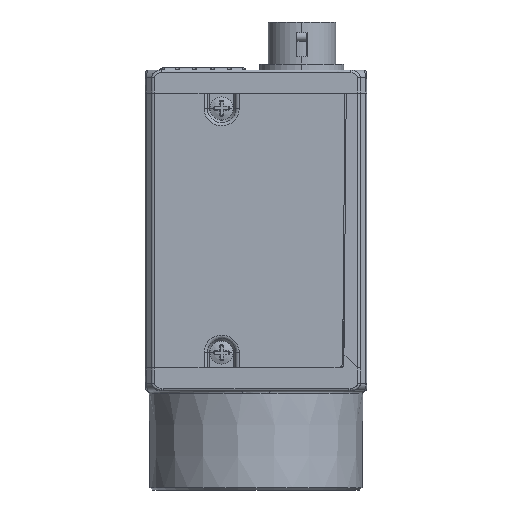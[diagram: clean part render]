
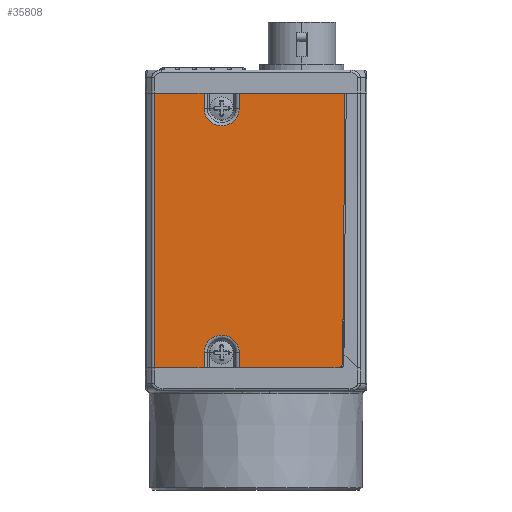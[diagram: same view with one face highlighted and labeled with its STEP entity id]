
A CAD part, left-side view. The second image highlights one B-rep face of the part: STEP entity #35808.
In plain terms, the highlighted planar face has unit normal (-1, 0, 0).
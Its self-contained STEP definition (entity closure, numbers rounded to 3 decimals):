
#5970=DIRECTION('',(0.,-1.,0.));
#5971=VECTOR('',#5970,6.492);
#5972=CARTESIAN_POINT('',(-14.5,13.293,33.5));
#5973=LINE('',#5972,#5971);
#6038=DIRECTION('',(0.,-1.,0.));
#6039=VECTOR('',#6038,13.849);
#6040=CARTESIAN_POINT('',(-14.5,2.199,33.5));
#6041=LINE('',#6040,#6039);
#6042=CARTESIAN_POINT('',(-14.5,4.5,-0.5));
#6043=DIRECTION('',(-1.,0.,0.));
#6044=DIRECTION('',(0.,-1.,0.));
#6045=AXIS2_PLACEMENT_3D('',#6042,#6043,#6044);
#6047=CARTESIAN_POINT('',(-14.5,4.5,-0.5));
#6048=DIRECTION('',(-1.,0.,0.));
#6049=DIRECTION('',(0.,-0.992,0.122));
#6050=AXIS2_PLACEMENT_3D('',#6047,#6048,#6049);
#6052=CARTESIAN_POINT('',(-14.5,4.5,31.5));
#6053=DIRECTION('',(-1.,0.,0.));
#6054=DIRECTION('',(0.,1.,0.));
#6055=AXIS2_PLACEMENT_3D('',#6052,#6053,#6054);
#6057=CARTESIAN_POINT('',(-14.5,4.5,31.5));
#6058=DIRECTION('',(-1.,0.,0.));
#6059=DIRECTION('',(0.,0.992,-0.122));
#6060=AXIS2_PLACEMENT_3D('',#6057,#6058,#6059);
#6062=DIRECTION('',(0.,0.009,-1.));
#6063=VECTOR('',#6062,35.407);
#6064=CARTESIAN_POINT('',(-14.5,-11.65,33.5));
#6065=LINE('',#6064,#6063);
#6066=CARTESIAN_POINT('',(-14.5,-10.741,-1.9));
#6067=DIRECTION('',(1.,0.,0.));
#6068=DIRECTION('',(0.,-1.,-0.009));
#6069=AXIS2_PLACEMENT_3D('',#6066,#6067,#6068);
#6071=DIRECTION('',(0.,1.,0.));
#6072=VECTOR('',#6071,12.94);
#6073=CARTESIAN_POINT('',(-14.5,-10.741,-2.5));
#6074=LINE('',#6073,#6072);
#6145=DIRECTION('',(0.,1.,0.));
#6146=VECTOR('',#6145,6.492);
#6147=CARTESIAN_POINT('',(-14.5,6.801,-2.5));
#6148=LINE('',#6147,#6146);
#7573=CARTESIAN_POINT('',(-14.5,13.293,
-2.5));
#7590=DIRECTION('',(0.,0.,-1.));
#7591=VECTOR('',#7590,36.);
#7592=CARTESIAN_POINT('',(-14.5,13.293,33.5));
#7593=LINE('',#7592,#7591);
#7610=CARTESIAN_POINT('',(-14.5,13.293,33.5));
#9780=DIRECTION('',(0.,0.,-1.));
#9781=VECTOR('',#9780,2.);
#9782=CARTESIAN_POINT('',(-14.5,2.199,33.5));
#9783=LINE('',#9782,#9781);
#9812=DIRECTION('',(0.,0.,1.));
#9813=VECTOR('',#9812,2.);
#9814=CARTESIAN_POINT('',(-14.5,6.801,31.5));
#9815=LINE('',#9814,#9813);
#12375=DIRECTION('',(0.,0.,1.));
#12376=VECTOR('',#12375,2.);
#12377=CARTESIAN_POINT('',(-14.5,6.801,-2.5));
#12378=LINE('',#12377,#12376);
#12407=DIRECTION('',(0.,0.,-1.));
#12408=VECTOR('',#12407,2.);
#12409=CARTESIAN_POINT('',(-14.5,2.199,-0.5));
#12410=LINE('',#12409,#12408);
#26975=CARTESIAN_POINT('',(-14.5,2.199,-0.5));
#26976=CARTESIAN_POINT('',(-14.5,2.217,-0.219));
#26977=VERTEX_POINT('',#26975);
#26978=VERTEX_POINT('',#26976);
#26979=CARTESIAN_POINT('',(-14.5,6.801,-0.5));
#26980=VERTEX_POINT('',#26979);
#26981=CARTESIAN_POINT('',(-14.5,6.801,31.5));
#26982=CARTESIAN_POINT('',(-14.5,6.783,31.219));
#26983=VERTEX_POINT('',#26981);
#26984=VERTEX_POINT('',#26982);
#26985=CARTESIAN_POINT('',(-14.5,2.199,31.5));
#26986=VERTEX_POINT('',#26985);
#28517=VERTEX_POINT('',#7573);
#28518=CARTESIAN_POINT('',(-14.5,-10.741,-2.5));
#28519=CARTESIAN_POINT('',(-14.5,2.199,-2.5));
#28520=VERTEX_POINT('',#28518);
#28521=VERTEX_POINT('',#28519);
#28522=CARTESIAN_POINT('',(-14.5,6.801,-2.5));
#28523=VERTEX_POINT('',#28522);
#28565=VERTEX_POINT('',#7610);
#28566=CARTESIAN_POINT('',(-14.5,6.801,33.5));
#28567=VERTEX_POINT('',#28566);
#28568=CARTESIAN_POINT('',(-14.5,2.199,33.5));
#28569=CARTESIAN_POINT('',(-14.5,-11.65,33.5));
#28570=VERTEX_POINT('',#28568);
#28571=VERTEX_POINT('',#28569);
#28594=CARTESIAN_POINT('',(-14.5,-11.341,-1.905));
#28595=VERTEX_POINT('',#28594);
#35773=CARTESIAN_POINT('',(-14.5,0.821,15.5));
#35774=DIRECTION('',(1.,0.,0.));
#35775=DIRECTION('',(0.,-1.,0.));
#35776=AXIS2_PLACEMENT_3D('',#35773,#35774,#35775);
#35777=PLANE('',#35776);
#35779=ORIENTED_EDGE('',*,*,#35778,.T.);
#35781=ORIENTED_EDGE('',*,*,#35780,.F.);
#35783=ORIENTED_EDGE('',*,*,#35782,.T.);
#35785=ORIENTED_EDGE('',*,*,#35784,.T.);
#35787=ORIENTED_EDGE('',*,*,#35786,.F.);
#35789=ORIENTED_EDGE('',*,*,#35788,.T.);
#35791=ORIENTED_EDGE('',*,*,#35790,.F.);
#35792=ORIENTED_EDGE('',*,*,#35752,.T.);
#35794=ORIENTED_EDGE('',*,*,#35793,.F.);
#35796=ORIENTED_EDGE('',*,*,#35795,.T.);
#35798=ORIENTED_EDGE('',*,*,#35797,.T.);
#35800=ORIENTED_EDGE('',*,*,#35799,.F.);
#35801=ORIENTED_EDGE('',*,*,#35766,.T.);
#35803=ORIENTED_EDGE('',*,*,#35802,.T.);
#35805=ORIENTED_EDGE('',*,*,#35804,.T.);
#35806=EDGE_LOOP('',(#35779,#35781,#35783,#35785,#35787,#35789,#35791,#35792,
#35794,#35796,#35798,#35800,#35801,#35803,#35805));
#35807=FACE_OUTER_BOUND('',#35806,.F.);
#35808=ADVANCED_FACE('',(#35807),#35777,.F.);
#6046=CIRCLE('',#6045,2.301);
#6051=CIRCLE('',#6050,2.301);
#6056=CIRCLE('',#6055,2.301);
#6061=CIRCLE('',#6060,2.301);
#6070=CIRCLE('',#6069,0.6);
#35752=EDGE_CURVE('',#28565,#28567,#5973,.T.);
#35766=EDGE_CURVE('',#28570,#28571,#6041,.T.);
#35778=EDGE_CURVE('',#28520,#28521,#6074,.T.);
#35780=EDGE_CURVE('',#26977,#28521,#12410,.T.);
#35782=EDGE_CURVE('',#26977,#26978,#6046,.T.);
#35784=EDGE_CURVE('',#26978,#26980,#6051,.T.);
#35786=EDGE_CURVE('',#28523,#26980,#12378,.T.);
#35788=EDGE_CURVE('',#28523,#28517,#6148,.T.);
#35790=EDGE_CURVE('',#28565,#28517,#7593,.T.);
#35793=EDGE_CURVE('',#26983,#28567,#9815,.T.);
#35795=EDGE_CURVE('',#26983,#26984,#6056,.T.);
#35797=EDGE_CURVE('',#26984,#26986,#6061,.T.);
#35799=EDGE_CURVE('',#28570,#26986,#9783,.T.);
#35802=EDGE_CURVE('',#28571,#28595,#6065,.T.);
#35804=EDGE_CURVE('',#28595,#28520,#6070,.T.);
